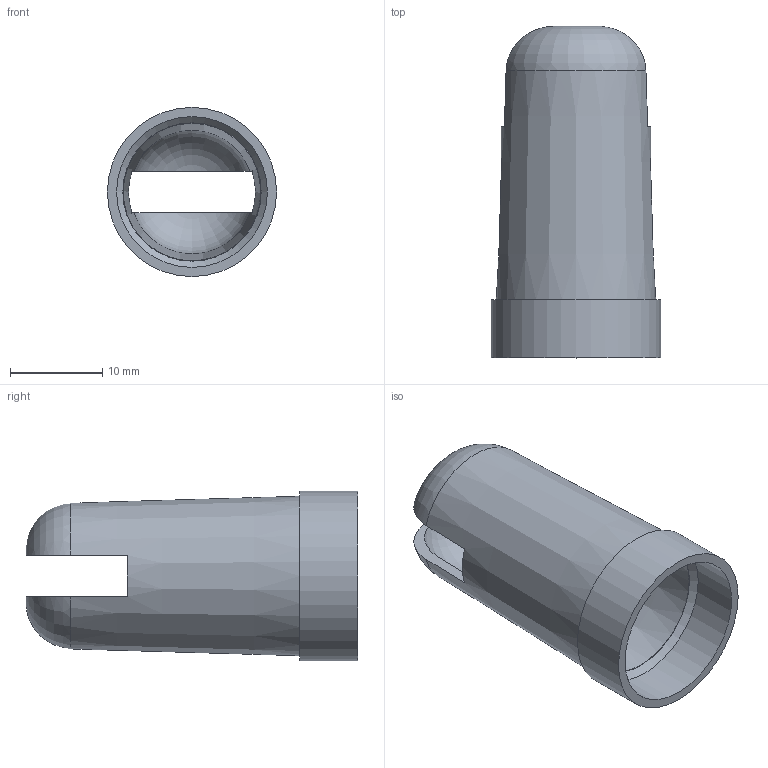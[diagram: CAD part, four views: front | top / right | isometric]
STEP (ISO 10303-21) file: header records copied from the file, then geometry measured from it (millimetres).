
FILE_DESCRIPTION(/* description */ ('Unknown'),/* implementation_level */ '2;1');
FILE_NAME(/* name */ '3512-58-mod',/* time_stamp */ '2024-10-24T17:29:11-05:00',/* author */ ('Unknown'),/* organization */ ('Unknown'),/* preprocessor_version */ 'ST-DEVELOPER v18.102',/* originating_system */ 'Solid Edge',/* authorisation */ 'Unknown');
FILE_SCHEMA (('AUTOMOTIVE_DESIGN {1 0 10303 214 3 1 1}'));
Length unit declared in the file: millimetre
Products named in the file (1): 3512-58-mod
Bounding box: 18.36 x 36 x 18.36 mm (x, y, z)
Volume: 1954.9 mm3; surface area: 3518.7 mm2
Topology: 1 solids, 1 shells, 18 faces, 45 edges, 30 vertices
Faces by surface type: plane 9, torus 4, cone 3, cylinder 2
Full cylindrical faces by diameter (mm): 16.36 x1, 18.36 x1
Entity records: 568 total; most frequent: CARTESIAN_POINT 151, DIRECTION 78, ORIENTED_EDGE 74, EDGE_CURVE 37, AXIS2_PLACEMENT_3D 36, VERTEX_POINT 27, EDGE_LOOP 26, FACE_BOUND 26
